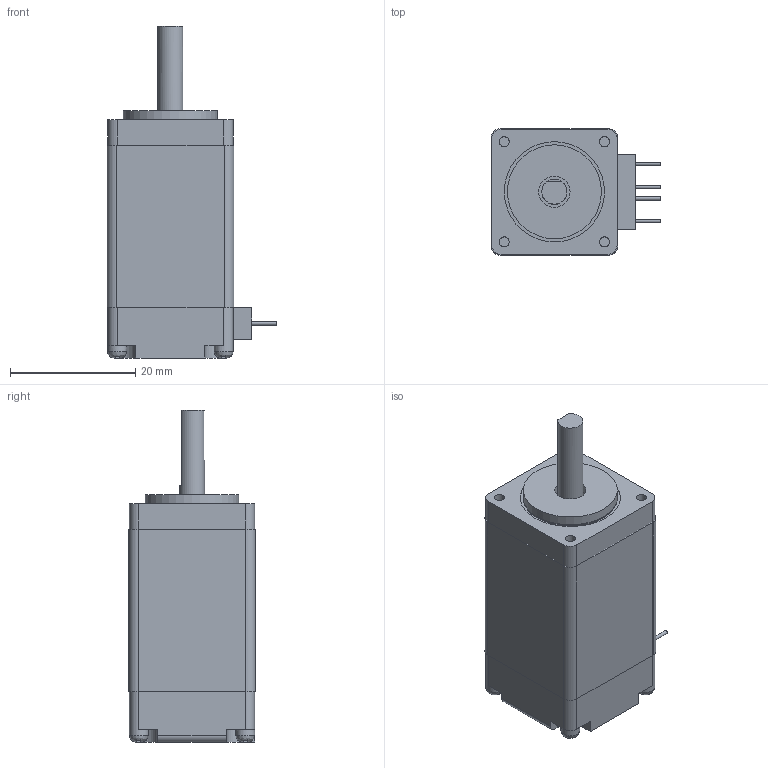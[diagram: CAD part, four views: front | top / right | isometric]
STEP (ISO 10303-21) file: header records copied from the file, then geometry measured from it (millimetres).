
FILE_DESCRIPTION(/* description */ (''),/* implementation_level */ '2;1');
FILE_NAME(/* name */ '20MMHAbujindianji.stp',/* time_stamp */ '2018-08-08T14:36:17+08:00',/* author */ (''),/* organization */ (''),/* preprocessor_version */ 'ST-DEVELOPER v11',/* originating_system */ 'SIEMENS UGS NX 6.0',/* authorisation */ '');
FILE_SCHEMA (('CONFIG_CONTROL_DESIGN'));
Length unit declared in the file: millimetre
Products named in the file (1): 20MMHA shuangzhou
Bounding box: 27.1 x 20.2 x 53 mm (x, y, z)
Volume: 25997.5 mm3; surface area: 7920.3 mm2
Topology: 9 solids, 9 shells, 190 faces, 473 edges, 313 vertices
Faces by surface type: plane 149, cylinder 33, cone 4, bspline 4
Full cylindrical faces by diameter (mm): 0.558 x1, 0.566 x1, 0.575 x1, 0.581 x1, 1.6 x4, 3 x3, 3.014 x1, 4 x3, 5 x3, 15 x2, 16 x1
Entity records: 5789 total; most frequent: CARTESIAN_POINT 1412, ORIENTED_EDGE 856, DIRECTION 841, EDGE_CURVE 428, VERTEX_POINT 301, LINE 293, VECTOR 293, AXIS2_PLACEMENT_3D 274
